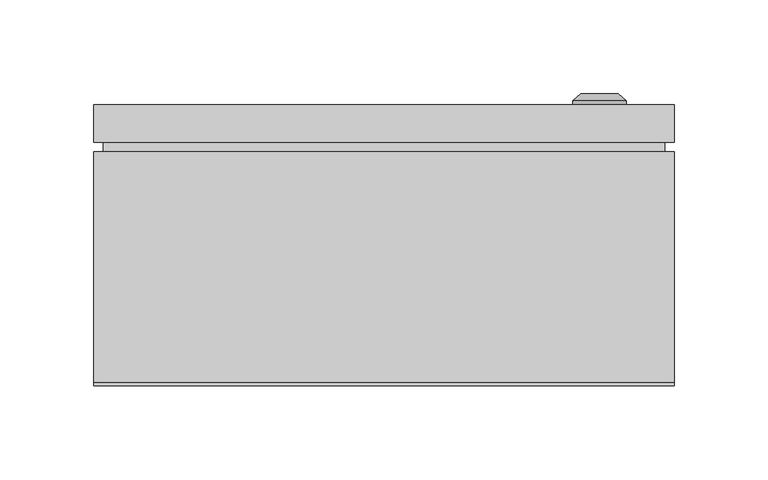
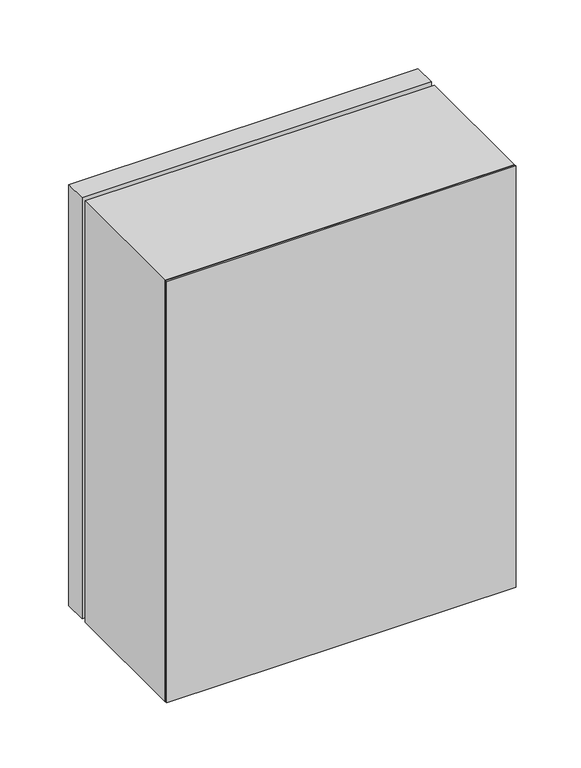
"""IFC4 building model written with IfcOpenShell, lengths in millimetres: proxy geometry, ЩМП_IP65 : ЩМП-1-1_395х310х150."""

from ifc_helpers import new_model, si_unit, frame, origin, origin_with_axes, place, context, project, spatial, polyline, circle_curve, outline, extrude, source, transform, mapped, element, save
from ifc_brep_helpers import plane_surface, cylinder_surface, revolved_surface, advanced_brep


def electrical_equipment_de6c3006(model_context):
    return source(origin(), model_context, "Body", "SolidModel", [
        extrude(outline(polyline([(150.0, 125.0), (-150.0, 125.0), (-150.0, 130.0), (150.0, 130.0), (150.0, 125.0)])), frame((0.0, 0.0, 5.0), z_axis=(0.0, 0.0, 1.0), x_axis=(1.0, 0.0, 0.0)), (0.0, 0.0, 1.0), 385.0),
        extrude(outline(polyline([(155.0, 130.0), (-155.0, 130.0), (-155.0, 150.0), (155.0, 150.0), (155.0, 130.0)])), origin_with_axes(), (0.0, 0.0, 1.0), 395.0),
        advanced_brep(
        [(100.669873, 150.0, 195.0), (129.330127, 150.0, 195.0), (115.0, 150.0, 195.0), (100.669873, 152.366592, 195.0), (129.330127, 152.366592, 195.0), (105.0, 156.0, 195.0), (125.0, 156.0, 195.0), (113.1080471, 156.0, 195.0), (116.8919529, 156.0, 195.0), (113.1080471, 154.9822294, 195.0), (116.8919529, 154.9822294, 195.0), (115.0, 154.9822294, 195.0)],
        [
            (0, 1, circle_curve(frame((115.0, 150.0, 195.0), z_axis=(0.0, -1.0, 0.0), x_axis=(1.0, 0.0, 0.0)), 14.330127)),
            (1, 2),
            (2, 0),
            (1, 0, circle_curve(frame((115.0, 150.0, 195.0), z_axis=(0.0, -1.0, 0.0), x_axis=(1.0, 0.0, 0.0)), 14.330127)),
            (3, 4, circle_curve(frame((115.0, 152.366592, 195.0), z_axis=(0.0, -1.0, 0.0), x_axis=(1.0, 0.0, 0.0)), 14.330127)),
            (4, 1),
            (0, 3),
            (4, 3, circle_curve(frame((115.0, 152.366592, 195.0), z_axis=(0.0, -1.0, 0.0), x_axis=(1.0, 0.0, 0.0)), 14.330127)),
            (5, 6, circle_curve(frame((115.0, 156.0, 195.0), z_axis=(0.0, -1.0, 0.0), x_axis=(1.0, 0.0, 0.0)), 10.0)),
            (6, 4),
            (3, 5),
            (6, 5, circle_curve(frame((115.0, 156.0, 195.0), z_axis=(0.0, -1.0, 0.0), x_axis=(1.0, 0.0, 0.0)), 10.0)),
            (7, 8, circle_curve(frame((115.0, 156.0, 195.0), z_axis=(0.0, -1.0, 0.0), x_axis=(1.0, 0.0, 0.0)), 1.8919529)),
            (8, 6),
            (5, 7),
            (8, 7, circle_curve(frame((115.0, 156.0, 195.0), z_axis=(0.0, -1.0, 0.0), x_axis=(1.0, 0.0, 0.0)), 1.8919529)),
            (9, 10, circle_curve(frame((115.0, 154.9822294, 195.0), z_axis=(0.0, -1.0, 0.0), x_axis=(1.0, 0.0, 0.0)), 1.8919529)),
            (10, 8),
            (7, 9),
            (10, 9, circle_curve(frame((115.0, 154.9822294, 195.0), z_axis=(0.0, -1.0, 0.0), x_axis=(1.0, 0.0, 0.0)), 1.8919529)),
            (11, 10),
            (9, 11),
        ],
        [
            plane_surface(frame((115.0, 150.0, 195.0), z_axis=(0.0, -1.0, 0.0), x_axis=(1.0, 0.0, 0.0))),
            cylinder_surface(frame((115.0, 163.1348851, 195.0), z_axis=(0.0, 1.0, 0.0), x_axis=(1.0, 0.0, 0.0)), 14.330127),
            revolved_surface(polyline([(129.330127, 152.366592, 195.0), (125.0, 156.0, 195.0)]), (115.0, 163.1348851, 195.0), (0.0, 1.0, 0.0)),
            plane_surface(frame((115.0, 156.0, 195.0), z_axis=(0.0, 1.0, 0.0), x_axis=(1.0, 0.0, 0.0))),
            revolved_surface(polyline([(116.8919529, 156.0, 195.0), (116.8919529, 154.9822294, 195.0)]), (115.0, 163.1348851, 195.0), (0.0, 1.0, 0.0)),
            plane_surface(frame((115.0, 154.9822294, 195.0), z_axis=(0.0, 1.0, 0.0), x_axis=(1.0, 0.0, 0.0))),
        ],
        [
            (0, [[1, 2, 3]]),
            (0, [[4, -3, -2]]),
            (1, [[5, 6, -1, 7]]),
            (1, [[8, -7, -4, -6]]),
            (2, [[9, 10, -5, 11]]),
            (2, [[12, -11, -8, -10]]),
            (3, [[13, 14, -9, 15]]),
            (3, [[16, -15, -12, -14]]),
            (4, [[17, 18, -13, 19]]),
            (4, [[20, -19, -16, -18]]),
            (5, [[21, -17, 22]]),
            (5, [[-22, -20, -21]]),
        ],
    ),
        extrude(outline(polyline([(395.0, -155.0033905), (0.0, -155.0033905), (0.0, 154.9966095), (395.0, 154.9966095), (395.0, -155.0033905)]), holes=[polyline([(360.0, -125.0033905), (360.0, 124.9966095), (30.0, 124.9966095), (30.0, -125.0033905), (360.0, -125.0033905)])]), frame((0.0, 2.0, 0.0), z_axis=(0.0, 1.0, 0.0), x_axis=(0.0, 0.0, 1.0)), (0.0, 0.0, 1.0), 123.0),
        extrude(outline(polyline([(155.0, 0.0), (-155.0, 0.0), (-155.0, 2.0), (155.0, 2.0), (155.0, 0.0)])), origin_with_axes(), (0.0, 0.0, 1.0), 395.0),
    ])


if __name__ == "__main__":
    model = new_model("IFC4")
    model_context = context("Model", 3, world=origin())
    ifc_project = project(units=[si_unit("LENGTHUNIT", "METRE", prefix="MILLI")], contexts=[model_context])
    site = spatial("IfcSite", under=ifc_project)
    building = spatial("IfcBuilding", under=site)
    placement = place(None, origin())
    electrical_equipment_shape = electrical_equipment_de6c3006(model_context)
    element("IfcBuildingElementProxy", 1, Name="ЩМП_IP65 : ЩМП-1-1_395х310х150", ObjectType="ЩМП_IP65 : ЩМП-1-1_395х310х150", at=placement, inside=building, context=model_context, shape_type="MappedRepresentation", body=[
        mapped(electrical_equipment_shape, transform((0.0, 0.0, 0.0), x_axis=(1.0, 0.0, 0.0), y_axis=(0.0, 1.0, 0.0), z_axis=(0.0, 0.0, 1.0))),
    ])
    save(model, "model.ifc")
